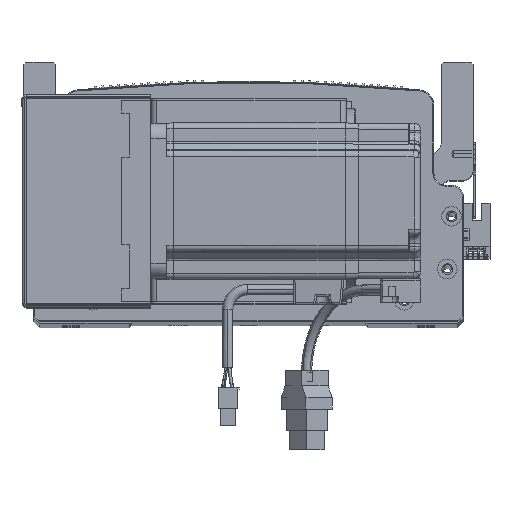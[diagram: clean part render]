
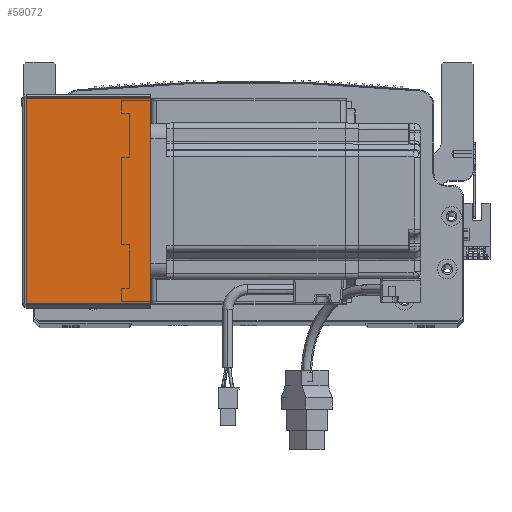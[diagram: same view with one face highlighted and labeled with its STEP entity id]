
A CAD part, top view. The second image highlights one B-rep face of the part: STEP entity #59072.
In plain terms, the highlighted planar face has unit normal (0, 0, 1) as drawn and (0, 0, -1) by its records, which use the part's own axes.
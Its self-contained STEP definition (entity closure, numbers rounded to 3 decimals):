
#2284 = VECTOR ( 'NONE', #63723, 1000. ) ;
#2810 = DIRECTION ( 'NONE',  ( 0., -1., 0. ) ) ;
#4600 = LINE ( 'NONE', #43643, #73986 ) ;
#5326 = VERTEX_POINT ( 'NONE', #42351 ) ;
#5723 = DIRECTION ( 'NONE',  ( 1., 0., 0. ) ) ;
#6388 = ORIENTED_EDGE ( 'NONE', *, *, #35450, .F. ) ;
#8549 = CARTESIAN_POINT ( 'NONE',  ( 0.737, 105.293, -205.5 ) ) ;
#8927 = EDGE_CURVE ( 'NONE', #12584, #5326, #4600, .T. ) ;
#12584 = VERTEX_POINT ( 'NONE', #20397 ) ;
#14415 = AXIS2_PLACEMENT_3D ( 'NONE', #59539, #85264, #5723 ) ;
#20397 = CARTESIAN_POINT ( 'NONE',  ( 64.5, 105.293, -205.5 ) ) ;
#21202 = CARTESIAN_POINT ( 'NONE',  ( 0.737, 0.707, -205.5 ) ) ;
#21253 = EDGE_CURVE ( 'NONE', #54092, #57375, #33825, .T. ) ;
#28788 = ORIENTED_EDGE ( 'NONE', *, *, #8927, .T. ) ;
#31271 = ORIENTED_EDGE ( 'NONE', *, *, #21253, .F. ) ;
#31277 = LINE ( 'NONE', #37065, #2284 ) ;
#31554 = FACE_OUTER_BOUND ( 'NONE', #53839, .T. ) ;
#33825 = LINE ( 'NONE', #36077, #53469 ) ;
#34309 = DIRECTION ( 'NONE',  ( 1., 0., 0. ) ) ;
#35450 = EDGE_CURVE ( 'NONE', #57375, #5326, #31277, .T. ) ;
#36077 = CARTESIAN_POINT ( 'NONE',  ( 0.737, 0., -205.5 ) ) ;
#37065 = CARTESIAN_POINT ( 'NONE',  ( 0., 0.707, -205.5 ) ) ;
#42351 = CARTESIAN_POINT ( 'NONE',  ( 64.5, 0.707, -205.5 ) ) ;
#43643 = CARTESIAN_POINT ( 'NONE',  ( 64.5, 0., -205.5 ) ) ;
#46265 = PLANE ( 'NONE',  #14415 ) ;
#53469 = VECTOR ( 'NONE', #2810, 1000. ) ;
#53839 = EDGE_LOOP ( 'NONE', ( #31271, #70198, #28788, #6388 ) ) ;
#54092 = VERTEX_POINT ( 'NONE', #8549 ) ;
#56910 = DIRECTION ( 'NONE',  ( 0., -1., 0. ) ) ;
#57375 = VERTEX_POINT ( 'NONE', #21202 ) ;
#59072 = ADVANCED_FACE ( 'NONE', ( #31554 ), #46265, .F. ) ;
#59539 = CARTESIAN_POINT ( 'NONE',  ( 0., 0., -205.5 ) ) ;
#63723 = DIRECTION ( 'NONE',  ( 1., 0., 0. ) ) ;
#64146 = EDGE_CURVE ( 'NONE', #54092, #12584, #83902, .T. ) ;
#70198 = ORIENTED_EDGE ( 'NONE', *, *, #64146, .T. ) ;
#73530 = VECTOR ( 'NONE', #34309, 1000. ) ;
#73939 = CARTESIAN_POINT ( 'NONE',  ( 0., 105.293, -205.5 ) ) ;
#73986 = VECTOR ( 'NONE', #56910, 1000. ) ;
#83902 = LINE ( 'NONE', #73939, #73530 ) ;
#85264 = DIRECTION ( 'NONE',  ( 0., 0., 1. ) ) ;
